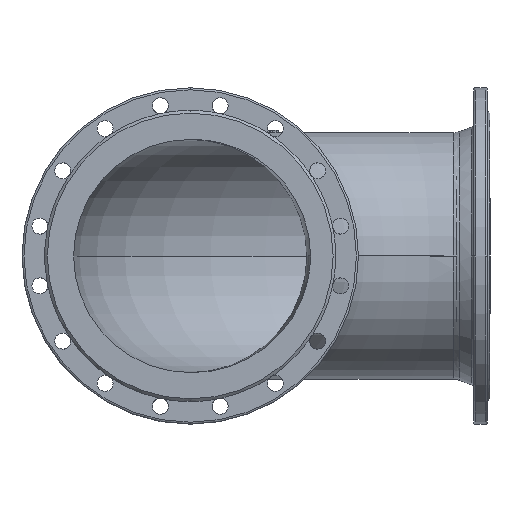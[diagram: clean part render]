
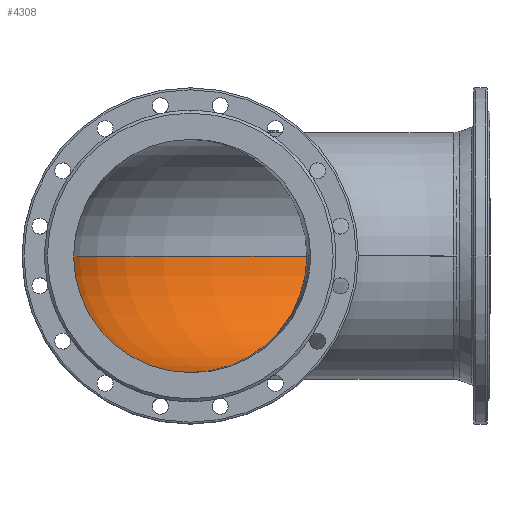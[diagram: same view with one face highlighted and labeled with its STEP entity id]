
A CAD part, left-side view. The second image highlights one B-rep face of the part: STEP entity #4308.
In plain terms, the highlighted toroidal (fillet/blend) face has major radius 400 mm and minor radius 175 mm.
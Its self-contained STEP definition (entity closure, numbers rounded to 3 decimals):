
#674 = ORIENTED_EDGE ( 'NONE', *, *, #1714, .F. ) ;
#676 = CIRCLE ( 'NONE', #5453, 175. ) ;
#680 = VERTEX_POINT ( 'NONE', #1253 ) ;
#698 = ORIENTED_EDGE ( 'NONE', *, *, #7258, .T. ) ;
#723 = CIRCLE ( 'NONE', #5640, 225. ) ;
#786 = CARTESIAN_POINT ( 'NONE',  ( 450., -400., 0. ) ) ;
#871 = DIRECTION ( 'NONE',  ( 0., -1., 0. ) ) ;
#1013 = VERTEX_POINT ( 'NONE', #7392 ) ;
#1115 = CARTESIAN_POINT ( 'NONE',  ( 50., 0., -175. ) ) ;
#1245 = DIRECTION ( 'NONE',  ( 0., 0., -1. ) ) ;
#1253 = CARTESIAN_POINT ( 'NONE',  ( 450., -400., -175. ) ) ;
#1296 = CARTESIAN_POINT ( 'NONE',  ( 50., -400., 0. ) ) ;
#1301 = DIRECTION ( 'NONE',  ( 0., 0., 1. ) ) ;
#1418 = DIRECTION ( 'NONE',  ( -1., 0., 0. ) ) ;
#1420 = ORIENTED_EDGE ( 'NONE', *, *, #5264, .F. ) ;
#1670 = CARTESIAN_POINT ( 'NONE',  ( 50., -400., 0. ) ) ;
#1714 = EDGE_CURVE ( 'Defeatured_0_0+Defeatured_0_1+Defeatured_0_129+Defeatured_0_129', #1013, #4982, #3583, .T. ) ;
#2102 = AXIS2_PLACEMENT_3D ( 'NONE', #6467, #3825, #8366 ) ;
#2158 = EDGE_CURVE ( 'Defeatured_0_129+Defeatured_0_1+Defeatured_0_0+Defeatured_0_0', #4982, #5159, #676, .T. ) ;
#2390 = DIRECTION ( 'NONE',  ( 0., 0., -1. ) ) ;
#2761 = EDGE_LOOP ( 'NONE', ( #7009, #4082, #674, #698, #1420, #8583 ) ) ;
#3136 = FACE_OUTER_BOUND ( 'NONE', #2761, .T. ) ;
#3141 = CARTESIAN_POINT ( 'NONE',  ( 50., 0., 0. ) ) ;
#3583 = CIRCLE ( 'NONE', #6115, 175. ) ;
#3595 = VERTEX_POINT ( 'NONE', #8352 ) ;
#3824 = CARTESIAN_POINT ( 'NONE',  ( 625., -400., 0. ) ) ;
#3825 = DIRECTION ( 'NONE',  ( 0., 1., 0. ) ) ;
#3894 = CARTESIAN_POINT ( 'NONE',  ( 50., 0., 0. ) ) ;
#4082 = ORIENTED_EDGE ( 'NONE', *, *, #2158, .F. ) ;
#4308 = ADVANCED_FACE ( 'Defeatured_0_1', ( #3136 ), #7878, .F. ) ;
#4361 = DIRECTION ( 'NONE',  ( 0., 0., -1. ) ) ;
#4427 = AXIS2_PLACEMENT_3D ( 'NONE', #7319, #5243, #8029 ) ;
#4605 = VERTEX_POINT ( 'NONE', #3824 ) ;
#4982 = VERTEX_POINT ( 'NONE', #1115 ) ;
#5159 = VERTEX_POINT ( 'NONE', #6919 ) ;
#5243 = DIRECTION ( 'NONE',  ( 0., 0., -1. ) ) ;
#5264 = EDGE_CURVE ( 'Defeatured_0_5+Defeatured_0_1+Defeatured_0_130+Defeatured_0_130', #680, #3595, #6173, .T. ) ;
#5453 = AXIS2_PLACEMENT_3D ( 'NONE', #3141, #5689, #2390 ) ;
#5640 = AXIS2_PLACEMENT_3D ( 'NONE', #1296, #1245, #1418 ) ;
#5689 = DIRECTION ( 'NONE',  ( 1., 0., 0. ) ) ;
#6115 = AXIS2_PLACEMENT_3D ( 'NONE', #3894, #6711, #1301 ) ;
#6173 = CIRCLE ( 'NONE', #2102, 175. ) ;
#6467 = CARTESIAN_POINT ( 'NONE',  ( 450., -400., 0. ) ) ;
#6541 = CIRCLE ( 'NONE', #4427, 575. ) ;
#6711 = DIRECTION ( 'NONE',  ( 1., 0., 0. ) ) ;
#6751 = AXIS2_PLACEMENT_3D ( 'NONE', #1670, #4361, #7847 ) ;
#6824 = CIRCLE ( 'NONE', #7389, 175. ) ;
#6919 = CARTESIAN_POINT ( 'NONE',  ( 50., 175., 0. ) ) ;
#7009 = ORIENTED_EDGE ( 'NONE', *, *, #8584, .F. ) ;
#7258 = EDGE_CURVE ( 'NONE', #1013, #3595, #723, .T. ) ;
#7319 = CARTESIAN_POINT ( 'NONE',  ( 50., -400., 0. ) ) ;
#7389 = AXIS2_PLACEMENT_3D ( 'NONE', #786, #871, #7537 ) ;
#7392 = CARTESIAN_POINT ( 'NONE',  ( 50., -175., 0. ) ) ;
#7537 = DIRECTION ( 'NONE',  ( 0., 0., -1. ) ) ;
#7847 = DIRECTION ( 'NONE',  ( -1., 0., 0. ) ) ;
#7878 = TOROIDAL_SURFACE ( 'NONE', #6751, 400., 175. ) ;
#8029 = DIRECTION ( 'NONE',  ( -1., 0., 0. ) ) ;
#8352 = CARTESIAN_POINT ( 'NONE',  ( 275., -400., 0. ) ) ;
#8366 = DIRECTION ( 'NONE',  ( 1., 0., 0. ) ) ;
#8583 = ORIENTED_EDGE ( 'NONE', *, *, #8686, .T. ) ;
#8584 = EDGE_CURVE ( 'NONE', #5159, #4605, #6541, .T. ) ;
#8686 = EDGE_CURVE ( 'Defeatured_0_1+Defeatured_0_130+Defeatured_0_5+Defeatured_0_5', #680, #4605, #6824, .T. ) ;
